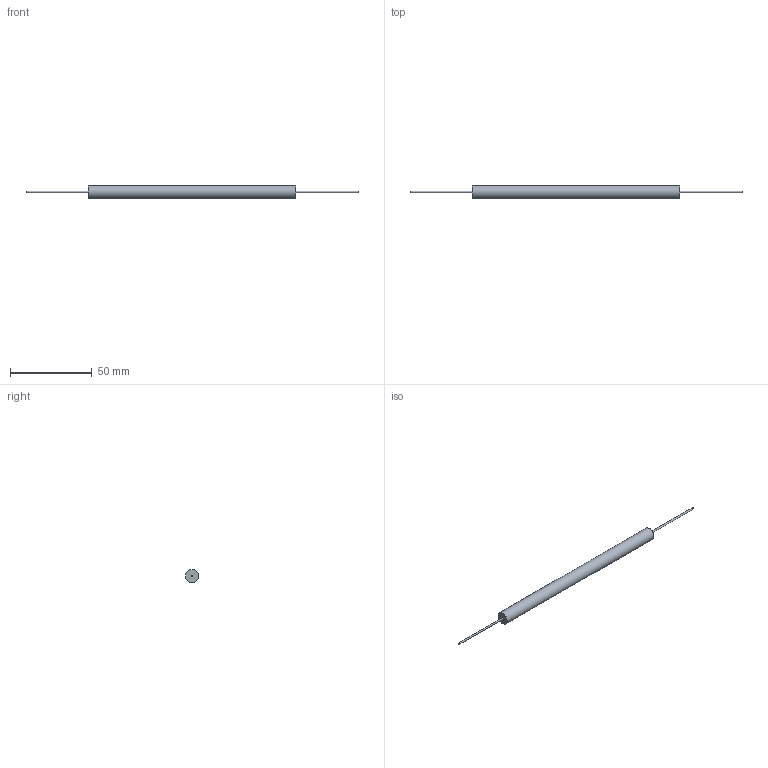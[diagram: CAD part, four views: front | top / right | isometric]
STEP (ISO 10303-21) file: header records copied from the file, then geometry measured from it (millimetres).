
FILE_DESCRIPTION(/* description */ (''),/* implementation_level */ '2;1');
FILE_NAME(/* name */ 'C:\Users\mulla\Documents\SEI Models\Inventor Files\HVAM\3D\HVAM100_stp.stp',/* time_stamp */ '2019-06-12T13:02:40-04:00',/* author */ ('mulla'),/* organization */ (''),/* preprocessor_version */ 'ST-DEVELOPER v16.1',/* originating_system */ 'Autodesk Inventor 2016',/* authorisation */ '');
FILE_SCHEMA (('AUTOMOTIVE_DESIGN { 1 0 10303 214 3 1 1 }'));
Length unit declared in the file: millimetre
Products named in the file (1): HVAM100
Bounding box: 203.2 x 7.87 x 7.87 mm (x, y, z)
Volume: 6240.2 mm3; surface area: 3484.7 mm2
Topology: 3 solids, 3 shells, 9 faces, 9 edges, 6 vertices
Faces by surface type: plane 6, cylinder 3
Full cylindrical faces by diameter (mm): 1.02 x2, 7.87 x1
Entity records: 186 total; most frequent: DIRECTION 32, CARTESIAN_POINT 22, AXIS2_PLACEMENT_3D 16, EDGE_LOOP 12, ORIENTED_EDGE 12, FACE_OUTER_BOUND 9, ADVANCED_FACE 9, PLANE 6
